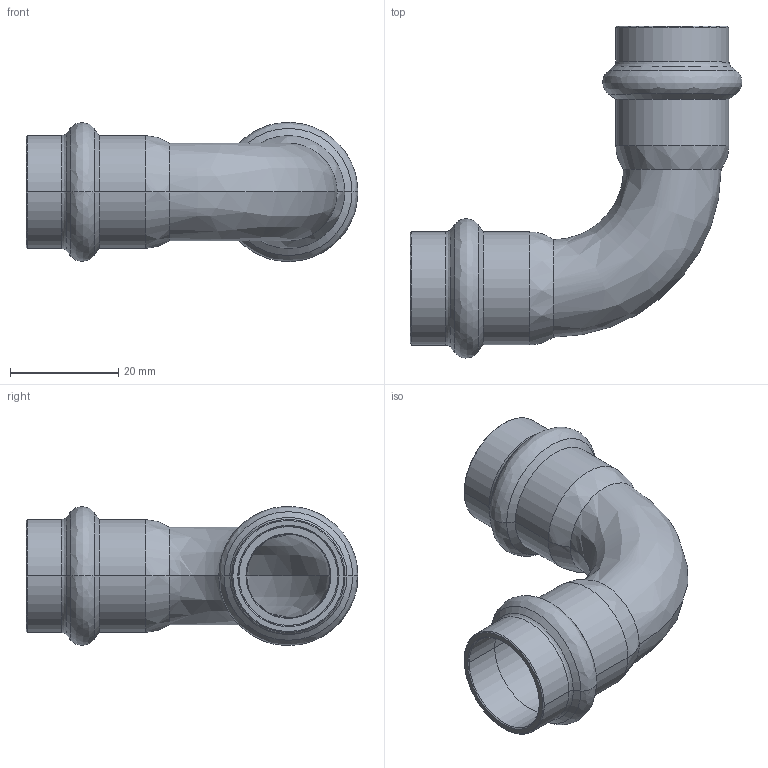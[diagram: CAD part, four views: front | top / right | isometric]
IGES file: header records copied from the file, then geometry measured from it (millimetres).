
Start section: Elysium IGES Interface
Global section: file name: C:\Users\Wallenburg\Desktop\3d modellen sudo\S-Pr VP\SP6002V\6002VW18.igs; native system: CoCreate Modeling 17.00A  17-Jun-2010; preprocessor: CoCreate IGES_3D V2.2; author: Unknown; organization: Unknown; date: 20130110.152613; units: millimetre
Bounding box: 61.28 x 61.28 x 25.68 mm (x, y, z)
Volume: 8158.7 mm3; surface area: 10931.1 mm2
Topology: 1 solids, 1 shells, 74 faces, 148 edges, 80 vertices
Faces by surface type: bspline 74
